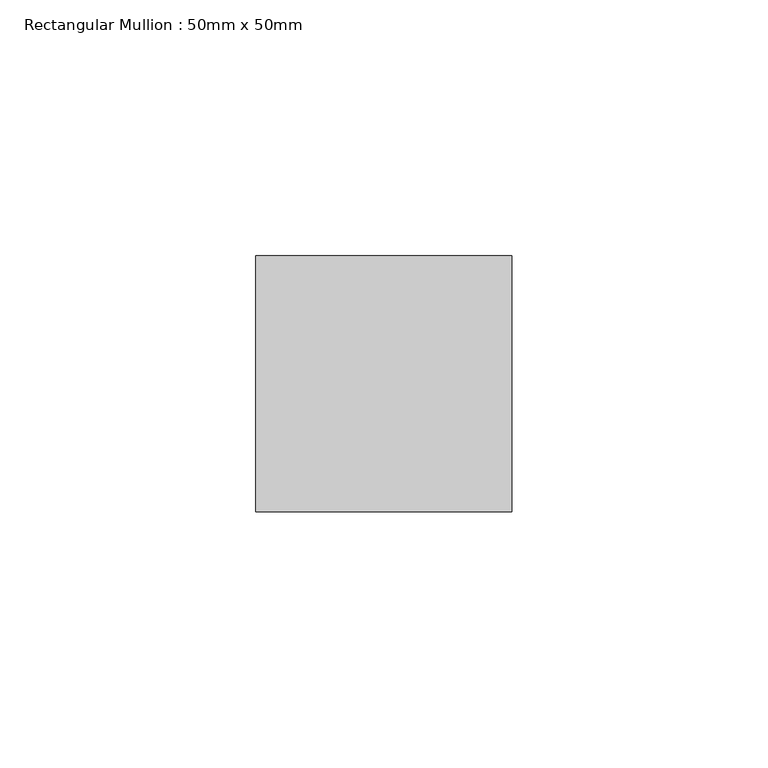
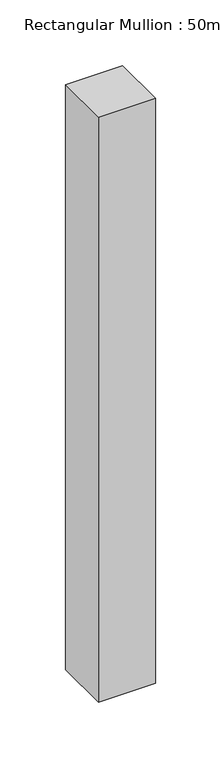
"""IFC4 building model written with IfcOpenShell, lengths in millimetres: member geometry, Rectangular Mullion : 50mm x 50mm."""

from ifc_helpers import new_model, si_unit, frame, origin, place, context, project, spatial, polyline, outline, extrude, source, transform, mapped, element, save


def rectangular_mullion_50mm_x_50mm_7a6d127b(model_context):
    return source(origin(), model_context, "Body", "SweptSolid", [
        extrude(outline(polyline([(0.0, 25.0), (0.0, -25.0), (-50.0, -25.0), (-50.0, 25.0), (0.0, 25.0)])), frame((0.0, 0.0, -542.8252723), z_axis=(0.0, 0.0, 1.0), x_axis=(1.0, 0.0, 0.0)), (0.0, 0.0, 1.0), 542.8252723),
    ])


if __name__ == "__main__":
    model = new_model("IFC4")
    model_context = context("Model", 3, world=origin())
    ifc_project = project(units=[si_unit("LENGTHUNIT", "METRE", prefix="MILLI")], contexts=[model_context])
    site = spatial("IfcSite", under=ifc_project)
    building = spatial("IfcBuilding", under=site)
    placement = place(None, origin())
    rectangular_mullion_50mm_x_50mm_shape = rectangular_mullion_50mm_x_50mm_7a6d127b(model_context)
    element("IfcMember", 1, ObjectType="Rectangular Mullion : 50mm x 50mm", at=placement, inside=building, context=model_context, shape_type="MappedRepresentation", body=[
        mapped(rectangular_mullion_50mm_x_50mm_shape, transform((0.0, 0.0, 0.0), x_axis=(1.0, 0.0, 0.0), y_axis=(0.0, 1.0, 0.0), z_axis=(0.0, 0.0, 1.0))),
    ])
    save(model, "model.ifc")
